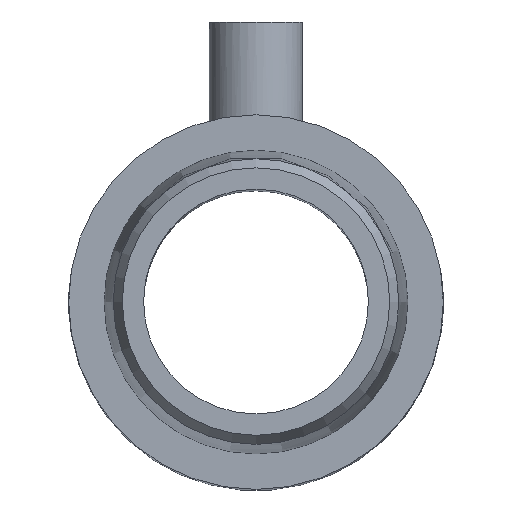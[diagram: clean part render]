
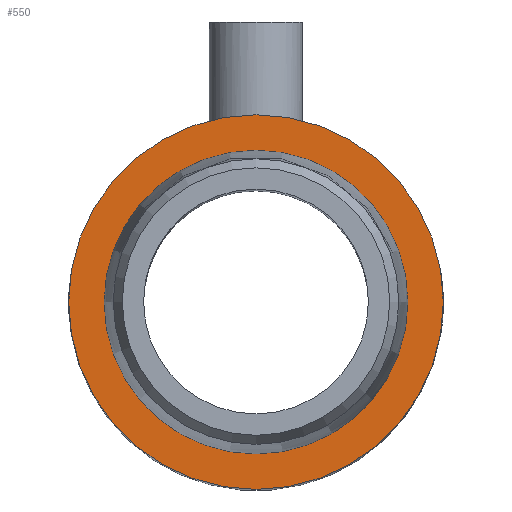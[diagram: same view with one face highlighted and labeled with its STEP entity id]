
A CAD part, top view. The second image highlights one B-rep face of the part: STEP entity #550.
In plain terms, the highlighted planar face has unit normal (0, 0, 1).
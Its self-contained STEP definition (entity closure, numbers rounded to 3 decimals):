
#67 = EDGE_LOOP ( 'NONE', ( #393 ) ) ;
#76 = CARTESIAN_POINT ( 'NONE',  ( 0., 0., 22. ) ) ;
#87 = VERTEX_POINT ( 'NONE', #441 ) ;
#104 = FACE_BOUND ( 'NONE', #428, .T. ) ;
#111 = DIRECTION ( 'NONE',  ( 0., 0., 1. ) ) ;
#136 = DIRECTION ( 'NONE',  ( 1., 0., 0. ) ) ;
#174 = CIRCLE ( 'NONE', #540, 4.864 ) ;
#217 = ORIENTED_EDGE ( 'NONE', *, *, #394, .F. ) ;
#223 = CARTESIAN_POINT ( 'NONE',  ( 4.864, 0., 22. ) ) ;
#232 = AXIS2_PLACEMENT_3D ( 'NONE', #371, #411, #453 ) ;
#233 = CIRCLE ( 'NONE', #268, 6. ) ;
#264 = VERTEX_POINT ( 'NONE', #223 ) ;
#268 = AXIS2_PLACEMENT_3D ( 'NONE', #502, #111, #463 ) ;
#280 = PLANE ( 'NONE',  #232 ) ;
#324 = FACE_OUTER_BOUND ( 'NONE', #67, .T. ) ;
#346 = EDGE_CURVE ( 'NONE', #87, #87, #233, .T. ) ;
#371 = CARTESIAN_POINT ( 'NONE',  ( 0., 6., 22. ) ) ;
#393 = ORIENTED_EDGE ( 'NONE', *, *, #346, .T. ) ;
#394 = EDGE_CURVE ( 'NONE', #264, #264, #174, .T. ) ;
#411 = DIRECTION ( 'NONE',  ( 0., 0., -1. ) ) ;
#427 = DIRECTION ( 'NONE',  ( 0., 0., 1. ) ) ;
#428 = EDGE_LOOP ( 'NONE', ( #217 ) ) ;
#441 = CARTESIAN_POINT ( 'NONE',  ( 6., 0., 22. ) ) ;
#453 = DIRECTION ( 'NONE',  ( -1., 0., 0. ) ) ;
#463 = DIRECTION ( 'NONE',  ( 1., 0., 0. ) ) ;
#502 = CARTESIAN_POINT ( 'NONE',  ( 0., 0., 22. ) ) ;
#540 = AXIS2_PLACEMENT_3D ( 'NONE', #76, #427, #136 ) ;
#550 = ADVANCED_FACE ( 'NONE', ( #104, #324 ), #280, .F. ) ;
